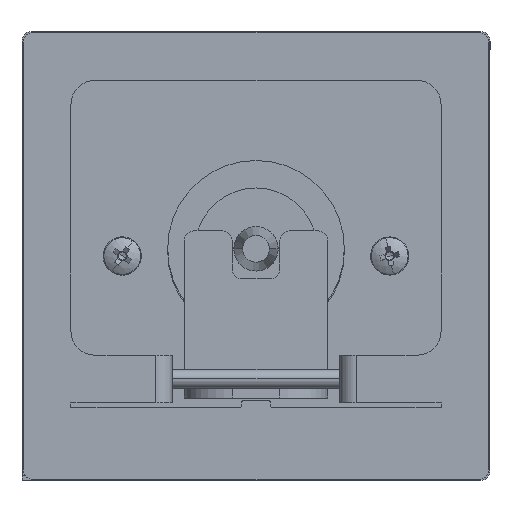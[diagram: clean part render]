
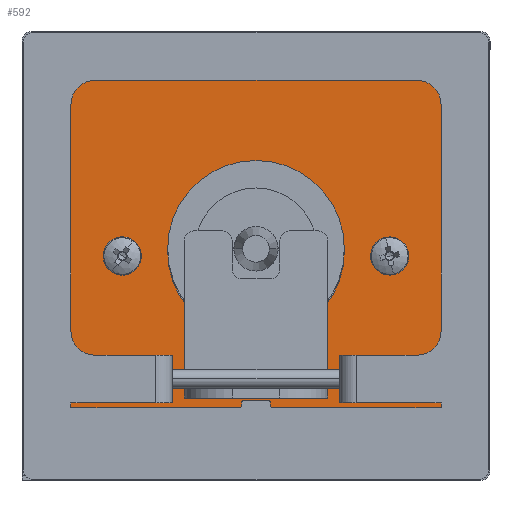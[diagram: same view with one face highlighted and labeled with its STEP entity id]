
A CAD part, front view. The second image highlights one B-rep face of the part: STEP entity #592.
In plain terms, the highlighted planar face has unit normal (0, -1, 0) as drawn and (0, 0, 1) by its records, which use the part's own axes.
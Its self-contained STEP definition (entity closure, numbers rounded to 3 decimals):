
#21 = CARTESIAN_POINT ( 'NONE',  ( 1., 92., 0. ) ) ;
#124 = DIRECTION ( 'NONE',  ( 0., 0., 1. ) ) ;
#244 = VERTEX_POINT ( 'NONE', #3405 ) ;
#259 = CARTESIAN_POINT ( 'NONE',  ( 1., 1., 0. ) ) ;
#272 = DIRECTION ( 'NONE',  ( 0., 0., 1. ) ) ;
#373 = CARTESIAN_POINT ( 'NONE',  ( 1., 0., 0. ) ) ;
#385 = CARTESIAN_POINT ( 'NONE',  ( 20., 46., 0. ) ) ;
#386 = CIRCLE ( 'NONE', #2697, 2. ) ;
#495 = AXIS2_PLACEMENT_3D ( 'NONE', #4310, #9807, #2084 ) ;
#592 = ADVANCED_FACE ( 'NONE', ( #2134, #3535, #3690, #1221 ), #9083, .T. ) ;
#677 = CARTESIAN_POINT ( 'NONE',  ( 76., 46., 0. ) ) ;
#941 = CIRCLE ( 'NONE', #3914, 2. ) ;
#954 = AXIS2_PLACEMENT_3D ( 'NONE', #6392, #124, #6998 ) ;
#1123 = CIRCLE ( 'NONE', #954, 1. ) ;
#1178 = ORIENTED_EDGE ( 'NONE', *, *, #3607, .T. ) ;
#1221 = FACE_OUTER_BOUND ( 'NONE', #3324, .T. ) ;
#1223 = ORIENTED_EDGE ( 'NONE', *, *, #8011, .T. ) ;
#1773 = VERTEX_POINT ( 'NONE', #3620 ) ;
#1798 = DIRECTION ( 'NONE',  ( 0., 0., 1. ) ) ;
#1844 = VECTOR ( 'NONE', #6547, 1000. ) ;
#1947 = DIRECTION ( 'NONE',  ( -1., 0., 0. ) ) ;
#2076 = DIRECTION ( 'NONE',  ( 1., 0., 0. ) ) ;
#2084 = DIRECTION ( 'NONE',  ( 1., 0., 0. ) ) ;
#2119 = DIRECTION ( 'NONE',  ( 0., 0., 1. ) ) ;
#2134 = FACE_BOUND ( 'NONE', #3692, .T. ) ;
#2159 = ORIENTED_EDGE ( 'NONE', *, *, #4954, .T. ) ;
#2183 = ORIENTED_EDGE ( 'NONE', *, *, #9557, .T. ) ;
#2276 = DIRECTION ( 'NONE',  ( 0., 0., 1. ) ) ;
#2453 = VECTOR ( 'NONE', #6852, 1000. ) ;
#2613 = CARTESIAN_POINT ( 'NONE',  ( 76., 46., 0. ) ) ;
#2641 = DIRECTION ( 'NONE',  ( 0., 0., 1. ) ) ;
#2688 = AXIS2_PLACEMENT_3D ( 'NONE', #677, #2276, #5405 ) ;
#2697 = AXIS2_PLACEMENT_3D ( 'NONE', #2613, #8984, #5640 ) ;
#3008 = DIRECTION ( 'NONE',  ( 1., 0., 0. ) ) ;
#3324 = EDGE_LOOP ( 'NONE', ( #7749, #8526, #8632, #1223, #2159, #1178, #2183, #8362 ) ) ;
#3405 = CARTESIAN_POINT ( 'NONE',  ( 78., 46., 0. ) ) ;
#3414 = DIRECTION ( 'NONE',  ( 1., 0., 0. ) ) ;
#3424 = CARTESIAN_POINT ( 'NONE',  ( 0., 1., 0. ) ) ;
#3503 = AXIS2_PLACEMENT_3D ( 'NONE', #3701, #2641, #4225 ) ;
#3535 = FACE_BOUND ( 'NONE', #8454, .T. ) ;
#3607 = EDGE_CURVE ( 'NONE', #8144, #8094, #8205, .T. ) ;
#3620 = CARTESIAN_POINT ( 'NONE',  ( 29.5, 45., 0. ) ) ;
#3690 = FACE_BOUND ( 'NONE', #4424, .T. ) ;
#3692 = EDGE_LOOP ( 'NONE', ( #5345, #7053 ) ) ;
#3697 = EDGE_CURVE ( 'NONE', #7036, #244, #9903, .T. ) ;
#3701 = CARTESIAN_POINT ( 'NONE',  ( 95., 91., 0. ) ) ;
#3757 = CARTESIAN_POINT ( 'NONE',  ( 1., 92., 0. ) ) ;
#3772 = CARTESIAN_POINT ( 'NONE',  ( 48., 45., 0. ) ) ;
#3811 = EDGE_CURVE ( 'NONE', #5970, #5751, #5144, .T. ) ;
#3914 = AXIS2_PLACEMENT_3D ( 'NONE', #385, #5320, #2076 ) ;
#3944 = DIRECTION ( 'NONE',  ( -1., 0., 0. ) ) ;
#4065 = EDGE_CURVE ( 'NONE', #244, #7036, #386, .T. ) ;
#4084 = CARTESIAN_POINT ( 'NONE',  ( 0., 91., 0. ) ) ;
#4147 = DIRECTION ( 'NONE',  ( 0., 0., 1. ) ) ;
#4225 = DIRECTION ( 'NONE',  ( -1., 0., 0. ) ) ;
#4310 = CARTESIAN_POINT ( 'NONE',  ( 95., 1., 0. ) ) ;
#4336 = CARTESIAN_POINT ( 'NONE',  ( 74., 46., 0. ) ) ;
#4424 = EDGE_LOOP ( 'NONE', ( #7098, #5903 ) ) ;
#4435 = DIRECTION ( 'NONE',  ( 1., 0., 0. ) ) ;
#4491 = VERTEX_POINT ( 'NONE', #7225 ) ;
#4631 = AXIS2_PLACEMENT_3D ( 'NONE', #4804, #1798, #4950 ) ;
#4650 = VECTOR ( 'NONE', #3944, 1000. ) ;
#4777 = AXIS2_PLACEMENT_3D ( 'NONE', #8166, #4147, #8927 ) ;
#4804 = CARTESIAN_POINT ( 'NONE',  ( 1., 91., 0. ) ) ;
#4812 = LINE ( 'NONE', #21, #4650 ) ;
#4950 = DIRECTION ( 'NONE',  ( -1., 0., 0. ) ) ;
#4954 = EDGE_CURVE ( 'NONE', #9650, #8144, #8728, .T. ) ;
#5101 = LINE ( 'NONE', #373, #7691 ) ;
#5144 = CIRCLE ( 'NONE', #3503, 1. ) ;
#5287 = VERTEX_POINT ( 'NONE', #10142 ) ;
#5320 = DIRECTION ( 'NONE',  ( 0., 0., 1. ) ) ;
#5345 = ORIENTED_EDGE ( 'NONE', *, *, #3697, .F. ) ;
#5350 = CIRCLE ( 'NONE', #7165, 1. ) ;
#5404 = ORIENTED_EDGE ( 'NONE', *, *, #9088, .F. ) ;
#5405 = DIRECTION ( 'NONE',  ( 1., 0., 0. ) ) ;
#5420 = CARTESIAN_POINT ( 'NONE',  ( 96., 1., 0. ) ) ;
#5478 = CIRCLE ( 'NONE', #6959, 18.5 ) ;
#5507 = VERTEX_POINT ( 'NONE', #8338 ) ;
#5539 = VERTEX_POINT ( 'NONE', #7552 ) ;
#5640 = DIRECTION ( 'NONE',  ( 1., 0., 0. ) ) ;
#5751 = VERTEX_POINT ( 'NONE', #6546 ) ;
#5861 = CARTESIAN_POINT ( 'NONE',  ( 1., 0., 0. ) ) ;
#5903 = ORIENTED_EDGE ( 'NONE', *, *, #7703, .F. ) ;
#5957 = AXIS2_PLACEMENT_3D ( 'NONE', #8146, #272, #3414 ) ;
#5970 = VERTEX_POINT ( 'NONE', #8418 ) ;
#5971 = EDGE_CURVE ( 'NONE', #5507, #4491, #941, .T. ) ;
#6130 = LINE ( 'NONE', #9275, #2453 ) ;
#6326 = EDGE_CURVE ( 'NONE', #7034, #5539, #5101, .T. ) ;
#6392 = CARTESIAN_POINT ( 'NONE',  ( 95., 1., 0. ) ) ;
#6546 = CARTESIAN_POINT ( 'NONE',  ( 95., 92., 0. ) ) ;
#6547 = DIRECTION ( 'NONE',  ( 0., -1., 0. ) ) ;
#6737 = EDGE_CURVE ( 'NONE', #8967, #5970, #6130, .T. ) ;
#6852 = DIRECTION ( 'NONE',  ( 0., 1., 0. ) ) ;
#6959 = AXIS2_PLACEMENT_3D ( 'NONE', #3772, #2119, #3008 ) ;
#6998 = DIRECTION ( 'NONE',  ( 1., 0., 0. ) ) ;
#7034 = VERTEX_POINT ( 'NONE', #5861 ) ;
#7036 = VERTEX_POINT ( 'NONE', #4336 ) ;
#7053 = ORIENTED_EDGE ( 'NONE', *, *, #4065, .F. ) ;
#7098 = ORIENTED_EDGE ( 'NONE', *, *, #9228, .F. ) ;
#7165 = AXIS2_PLACEMENT_3D ( 'NONE', #259, #9877, #1947 ) ;
#7225 = CARTESIAN_POINT ( 'NONE',  ( 22., 46., 0. ) ) ;
#7552 = CARTESIAN_POINT ( 'NONE',  ( 95., 0., 0. ) ) ;
#7691 = VECTOR ( 'NONE', #4435, 1000. ) ;
#7703 = EDGE_CURVE ( 'NONE', #1773, #5287, #9698, .T. ) ;
#7749 = ORIENTED_EDGE ( 'NONE', *, *, #8691, .T. ) ;
#8011 = EDGE_CURVE ( 'NONE', #5751, #9650, #4812, .T. ) ;
#8094 = VERTEX_POINT ( 'NONE', #8969 ) ;
#8144 = VERTEX_POINT ( 'NONE', #4084 ) ;
#8146 = CARTESIAN_POINT ( 'NONE',  ( 20., 46., 0. ) ) ;
#8166 = CARTESIAN_POINT ( 'NONE',  ( 48., 45., 0. ) ) ;
#8205 = LINE ( 'NONE', #3424, #1844 ) ;
#8338 = CARTESIAN_POINT ( 'NONE',  ( 18., 46., 0. ) ) ;
#8362 = ORIENTED_EDGE ( 'NONE', *, *, #6326, .T. ) ;
#8418 = CARTESIAN_POINT ( 'NONE',  ( 96., 91., 0. ) ) ;
#8454 = EDGE_LOOP ( 'NONE', ( #9225, #5404 ) ) ;
#8526 = ORIENTED_EDGE ( 'NONE', *, *, #6737, .T. ) ;
#8632 = ORIENTED_EDGE ( 'NONE', *, *, #3811, .T. ) ;
#8691 = EDGE_CURVE ( 'NONE', #5539, #8967, #1123, .T. ) ;
#8728 = CIRCLE ( 'NONE', #4631, 1. ) ;
#8927 = DIRECTION ( 'NONE',  ( 1., 0., 0. ) ) ;
#8967 = VERTEX_POINT ( 'NONE', #5420 ) ;
#8969 = CARTESIAN_POINT ( 'NONE',  ( 0., 1., 0. ) ) ;
#8984 = DIRECTION ( 'NONE',  ( 0., 0., 1. ) ) ;
#9083 = PLANE ( 'NONE',  #495 ) ;
#9088 = EDGE_CURVE ( 'NONE', #4491, #5507, #9092, .T. ) ;
#9092 = CIRCLE ( 'NONE', #5957, 2. ) ;
#9225 = ORIENTED_EDGE ( 'NONE', *, *, #5971, .F. ) ;
#9228 = EDGE_CURVE ( 'NONE', #5287, #1773, #5478, .T. ) ;
#9275 = CARTESIAN_POINT ( 'NONE',  ( 96., 1., 0. ) ) ;
#9557 = EDGE_CURVE ( 'NONE', #8094, #7034, #5350, .T. ) ;
#9650 = VERTEX_POINT ( 'NONE', #3757 ) ;
#9698 = CIRCLE ( 'NONE', #4777, 18.5 ) ;
#9807 = DIRECTION ( 'NONE',  ( 0., 0., 1. ) ) ;
#9877 = DIRECTION ( 'NONE',  ( 0., 0., 1. ) ) ;
#9903 = CIRCLE ( 'NONE', #2688, 2. ) ;
#10142 = CARTESIAN_POINT ( 'NONE',  ( 66.5, 45., 0. ) ) ;
